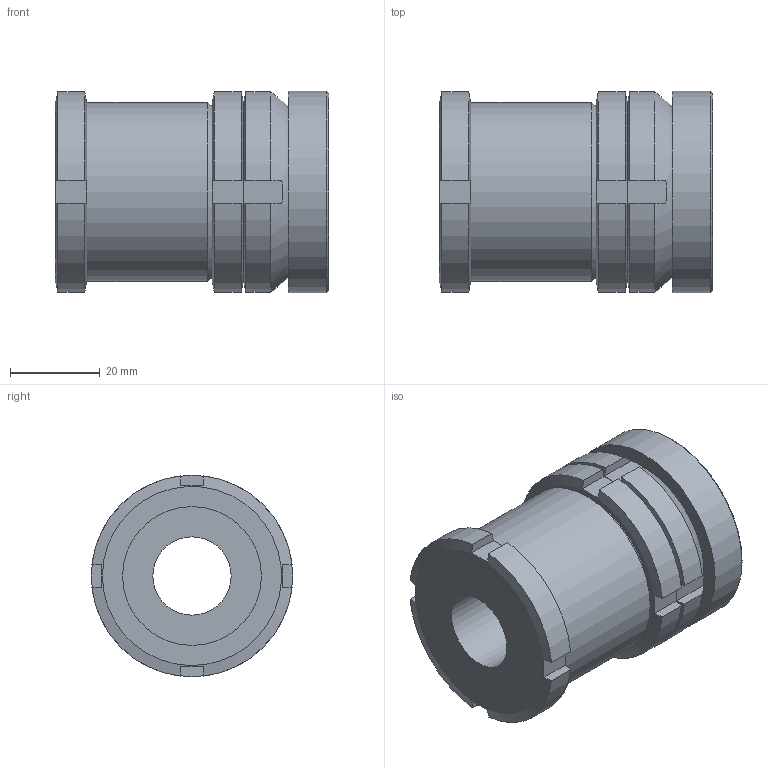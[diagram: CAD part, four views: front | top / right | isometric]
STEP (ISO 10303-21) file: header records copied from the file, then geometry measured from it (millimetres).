
FILE_DESCRIPTION( ( 'STEP AP203' ), '1' );
FILE_NAME( 'C:/Temp/Ganter_Step_05_03_2020/data/3_2/gn350_5/gn350_5_st/Levelling set GN 350.5-45-17,5-61-ST (0-0).stp', '2020-03-13T05:28:31', ( 'License CC BY-ND 4.0' ), ( 'CADENAS' ), ' ', 'PARTsolutions', ' ' );
FILE_SCHEMA( ( 'CONFIG_CONTROL_DESIGN' ) );
Length unit declared in the file: millimetre
Products named in the file (5): Levelling set GN 350.5-45-17,5-61-ST (0-0); _Levelling set GN 350.5-45-17,5-61-ST-G; _Levelling set GN 350.5-45-17,5-61-ST-K; _Levelling set GN 350.5-45-17,5-61-ST-P(0); _Levelling set GN 350.5-45-17,5-41-ST-KM
Assembly tree (4 placements, depth 2):
  Levelling set GN 350.5-45-17,5-61-ST (0-0)
    _Levelling set GN 350.5-45-17,5-61-ST-G
    _Levelling set GN 350.5-45-17,5-61-ST-K
    _Levelling set GN 350.5-45-17,5-61-ST-P(0)
    _Levelling set GN 350.5-45-17,5-41-ST-KM
Bounding box: 61 x 45 x 45 mm (x, y, z)
Volume: 71222.5 mm3; surface area: 28636.7 mm2
Topology: 4 solids, 4 shells, 85 faces, 211 edges, 140 vertices
Faces by surface type: plane 50, cylinder 24, cone 9, sphere 2
Full cylindrical faces by diameter (mm): 17.5 x1, 22 x1, 24.492 x1, 25.5 x1, 28.376 x1, 28.917 x1, 30 x2, 31 x2, 40 x1, 45 x1
Entity records: 2696 total; most frequent: CARTESIAN_POINT 698, DIRECTION 368, ORIENTED_EDGE 356, EDGE_CURVE 178, AXIS2_PLACEMENT_3D 160, VERTEX_POINT 130, EDGE_LOOP 122, FACE_OUTER_BOUND 99
